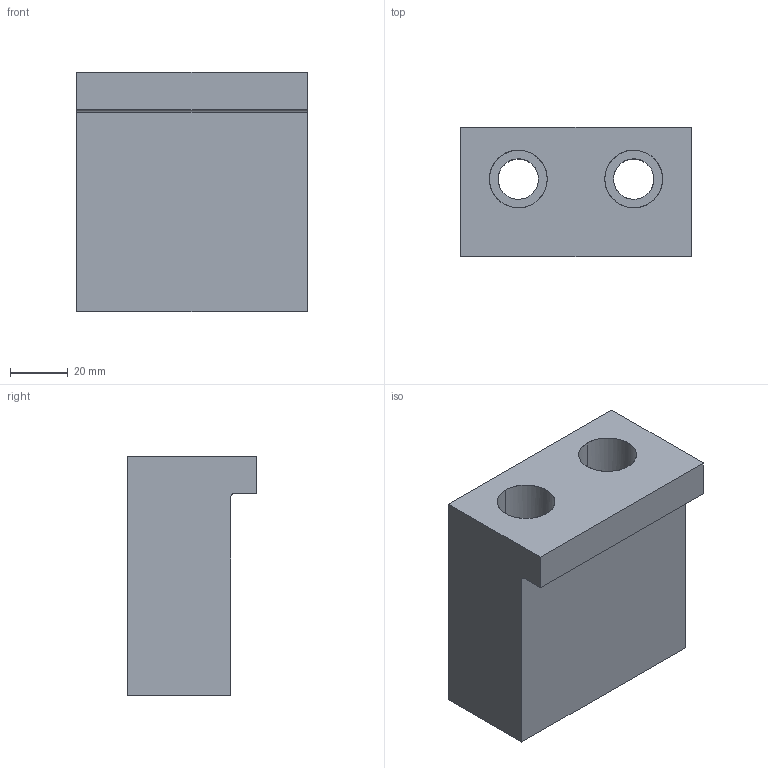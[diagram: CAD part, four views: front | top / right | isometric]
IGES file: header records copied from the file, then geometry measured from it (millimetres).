
Global section: file name: E:\UnigraphicsGraphicData\MISUMI_PRESS-PARTS\IGES\3d_bse80-70_01318_r00.igs; native system: NX V5.0; preprocessor: UGS NX IGES V5.0; author: MISUMI; date: 20110105.160141; units: millimetre
Bounding box: 80 x 45 x 83 mm (x, y, z)
Surface area: 33867.1 mm2 (no closed solid volume)
Topology: 0 solids, 0 shells, 19 faces, 142 edges, 142 vertices
Faces by surface type: bspline 19
